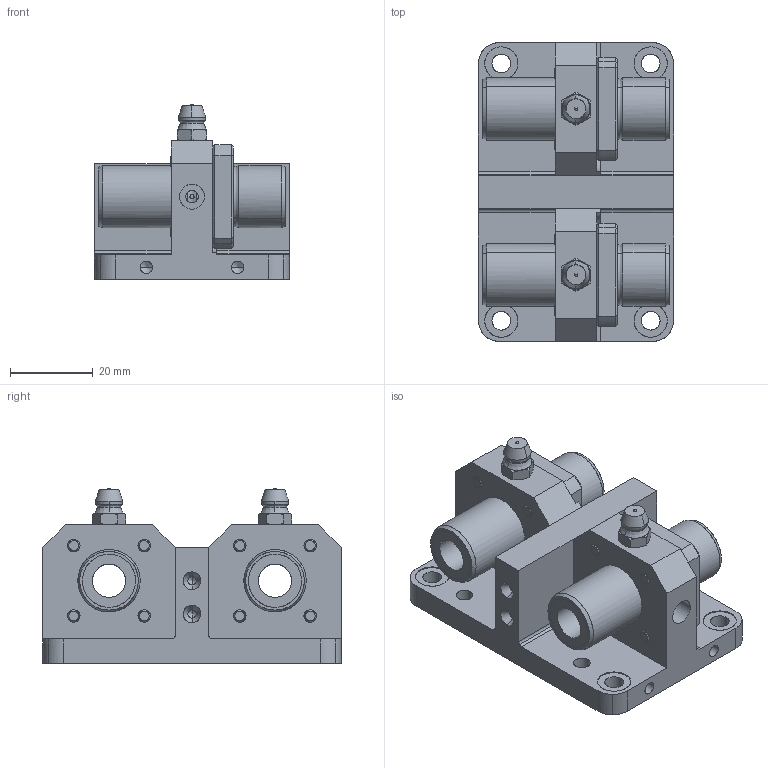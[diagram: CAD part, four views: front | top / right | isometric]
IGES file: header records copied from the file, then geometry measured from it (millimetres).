
Global section: file name: No Iges File Name specified; native system: AutoDesk Inventor R10; preprocessor: AutoDesk Inventor Iges Exporter R10; author: No Author specified; organization: No Organization specified; date: 20101227.092915; units: millimetre
Bounding box: 47 x 72 x 42.3 mm (x, y, z)
Surface area: 27958.6 mm2 (no closed solid volume)
Topology: 0 solids, 0 shells, 552 faces, 3590 edges, 3548 vertices
Faces by surface type: bspline 552
